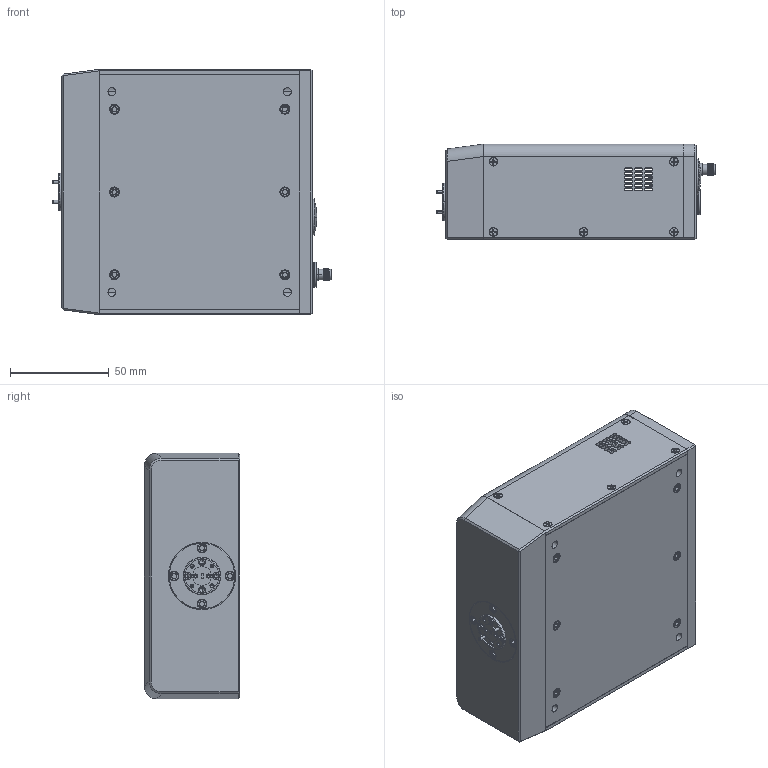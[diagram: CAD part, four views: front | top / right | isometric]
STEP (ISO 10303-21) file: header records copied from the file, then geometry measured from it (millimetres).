
FILE_DESCRIPTION (( 'STEP AP214' ), '1' );
FILE_NAME ('TE-F-A-2, Mountable, CTRLD.STEP', '2025-02-06T19:59:12', ( '' ), ( '' ), 'SwSTEP 2.0', 'SolidWorks 2021', '' );
FILE_SCHEMA (( 'AUTOMOTIVE_DESIGN' ));
Length unit declared in the file: inch
Products named in the file (1): TE-F-A-2, Mountable, CTRLD
Bounding box: 141.1 x 48.26 x 124.32 mm (x, y, z)
Volume: 280844.3 mm3; surface area: 135723.6 mm2
Topology: 39 solids, 39 shells, 2306 faces, 5974 edges, 3734 vertices
Faces by surface type: plane 941, cylinder 848, cone 419, bspline 64, torus 28, sphere 6
Entity records: 79863 total; most frequent: CARTESIAN_POINT 24203, ORIENTED_EDGE 11636, DIRECTION 11271, EDGE_CURVE 5818, AXIS2_PLACEMENT_3D 4220, VERTEX_POINT 3732, LINE 2831, VECTOR 2831
